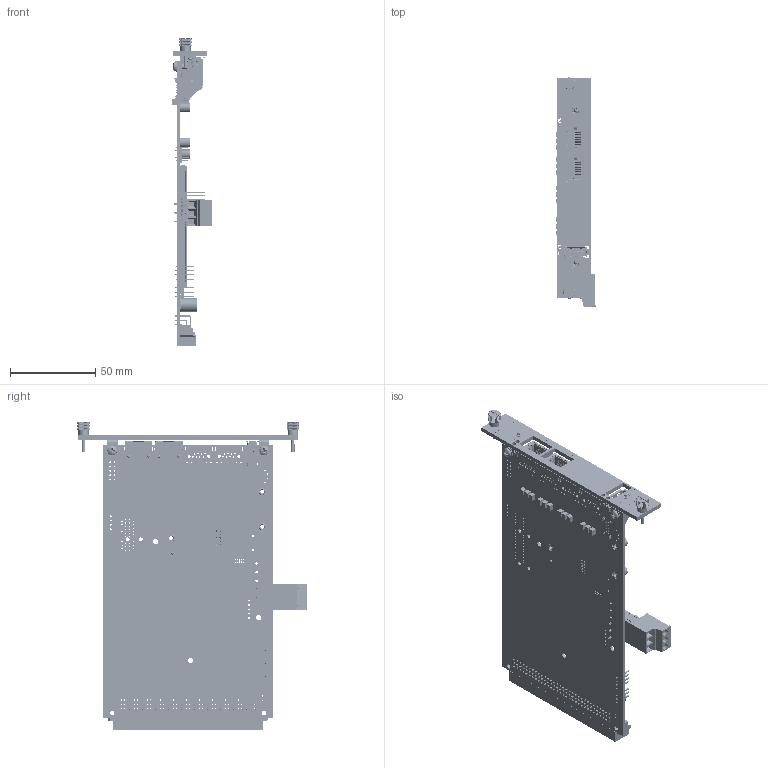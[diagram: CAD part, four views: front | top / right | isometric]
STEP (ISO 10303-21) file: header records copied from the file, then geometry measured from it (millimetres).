
FILE_DESCRIPTION (( 'STEP AP214' ), '1' );
FILE_NAME ('3-4112AAU-xx0-F00000.STEP', '2022-08-05T18:59:14', ( '' ), ( '' ), 'SwSTEP 2.0', 'SolidWorks 2022', '' );
FILE_SCHEMA (( 'AUTOMOTIVE_DESIGN' ));
Length unit declared in the file: inch
Products named in the file (29): S14-00DDR3-204; 014-0RJE73-4K0; 2M0-603041-550; 0S1-LCMX02-256; 025-10M2R5-2005_5mm; 014-000031; 2L0-604112-550; S13-0H5007-0NL; 027-130007-ASY; 100-0001GB-M3B; 0S1-LS1021-1KZ; 016-P00103-08P; 2M1-B04112-553; 025-920440-2004; 0S7-010226-000; 014-048404-003; 3-4112AAU-xx0-F00000; APTB1612YSGC-F01; 014-S90M96-00E; S25-0S0440-250; 0S7-016337-003_b; APT1608SGC; 300-604112-10X_104; 016-090A03-08P; 200-604019-100; 014-000010-2MM; 200-604112-554; S19-PTS840-0GK
Assembly tree (48 placements, depth 3):
  3-4112AAU-xx0-F00000
    300-604112-10X_104
      200-604112-554
      0S7-010226-000  x12
      0S1-LCMX02-256
      0S1-LS1021-1KZ
      S13-0H5007-0NL  x2
      014-0RJE73-4K0  x2
      014-048404-003
      016-090A03-08P
      S25-0S0440-250  x3
      0S7-016337-003_b
      S19-PTS840-0GK
      APTB1612YSGC-F01  x2
      APT1608SGC
      014-S90M96-00E
      027-130007-ASY
      S14-00DDR3-204
      014-000010-2MM
      014-000031
    2L0-604112-550
    200-604019-100  x2
    2M1-B04112-553
      2M1-B04112-553
      2M0-603041-550  x2
      025-10M2R5-2005_5mm  x2
    100-0001GB-M3B
    025-920440-2004  x2
    016-P00103-08P
Bounding box: 23.04 x 134.37 x 180.7 mm (x, y, z)
Volume: 58950.5 mm3; surface area: 88862.9 mm2
Topology: 290 solids, 294 shells, 19378 faces, 53338 edges, 35188 vertices
Faces by surface type: plane 14666, cylinder 3570, bspline 898, cone 236, sphere 4, torus 4
Entity records: 596800 total; most frequent: CARTESIAN_POINT 146889, ORIENTED_EDGE 84258, DIRECTION 67401, EDGE_CURVE 42137, LINE 31131, VECTOR 31131, VERTEX_POINT 27794, AXIS2_PLACEMENT_3D 18135
